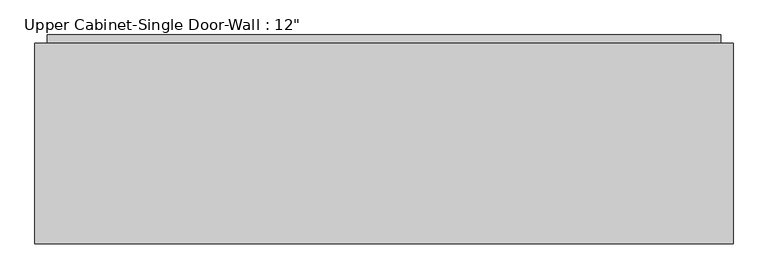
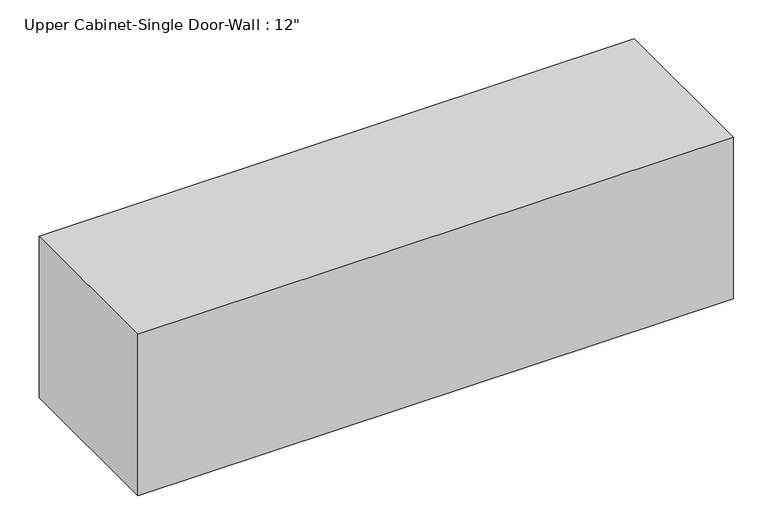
"""IFC4 building model written with IfcOpenShell, lengths in millimetres: furniture geometry."""

from ifc_helpers import new_model, si_unit, frame, origin, place, context, project, spatial, polyline, outline, extrude, faceted_brep, source, transform, mapped, element, save


def furniture_c8382fdc(model_context):
    return source(origin(), model_context, "Body", "SolidModel", [
        faceted_brep([(-802.9240106, 101.6, 2133.6), (-802.9240106, 101.6, 1828.8), (258.3711628, 101.6, 1828.8), (258.3711628, 101.6, 2133.6), (-802.9240106, 406.4, 2133.6), (258.3711628, 406.4, 2133.6), (258.3711628, 406.4, 1828.8), (-802.9240106, 406.4, 1828.8), (-783.8740106, 406.4, 2114.55), (-783.8740106, 406.4, 1847.85), (239.3211628, 406.4, 1847.85), (239.3211628, 406.4, 2114.55), (239.3211628, 120.65, 2114.55), (-783.8740106, 120.65, 2114.55), (239.3211628, 120.65, 1847.85), (-783.8740106, 120.65, 1847.85)], [[[0, 1, 2, 3]], [[4, 5, 6, 7], [8, 9, 10, 11]], [[1, 0, 4, 7]], [[2, 1, 7, 6]], [[3, 2, 6, 5]], [[0, 3, 5, 4]], [[8, 11, 12, 13]], [[11, 10, 14, 12]], [[10, 9, 15, 14]], [[9, 8, 13, 15]], [[13, 12, 14, 15]]]),
        extrude(outline(polyline([(-783.8740106, 419.1), (239.3211628, 419.1), (239.3211628, 387.35), (-783.8740106, 387.35), (-783.8740106, 419.1)])), frame((0.0, 0.0, 1847.85), z_axis=(0.0, 0.0, 1.0), x_axis=(1.0, 0.0, 0.0)), (0.0, 0.0, 1.0), 266.7),
    ])


if __name__ == "__main__":
    model = new_model("IFC4")
    model_context = context("Model", 3, world=origin())
    ifc_project = project(units=[si_unit("LENGTHUNIT", "METRE", prefix="MILLI")], contexts=[model_context])
    site = spatial("IfcSite", under=ifc_project)
    building = spatial("IfcBuilding", under=site)
    placement = place(None, origin())
    furniture_shape = furniture_c8382fdc(model_context)
    element("IfcFurniture", 1, ObjectType="Upper Cabinet-Single Door-Wall : 12\"", at=placement, inside=building, context=model_context, shape_type="MappedRepresentation", body=[
        mapped(furniture_shape, transform((0.0, 0.0, 0.0), x_axis=(1.0, 0.0, 0.0), y_axis=(0.0, 1.0, 0.0), z_axis=(0.0, 0.0, 1.0))),
    ])
    save(model, "model.ifc")
